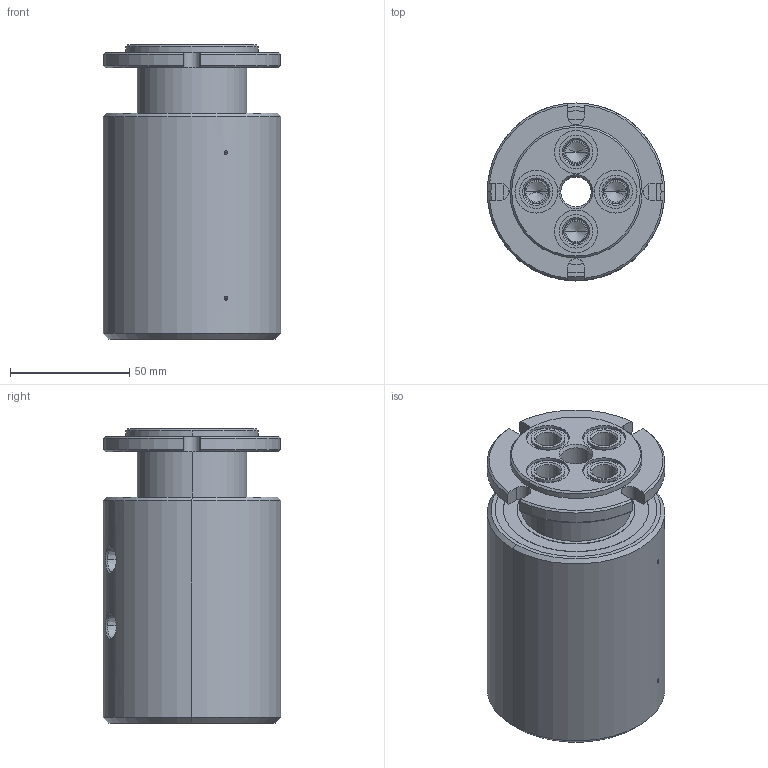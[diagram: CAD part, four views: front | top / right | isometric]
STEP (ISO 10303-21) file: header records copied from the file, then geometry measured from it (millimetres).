
FILE_DESCRIPTION (( 'STEP AP214' ), '1' );
FILE_NAME ('GP(M)-141.STEP', '2013-02-05T22:06:38', ( '' ), ( '' ), 'SwSTEP 2.0', 'SolidWorks 2011', '' );
FILE_SCHEMA (( 'AUTOMOTIVE_DESIGN' ));
Length unit declared in the file: inch
Products named in the file (1): GP(M)-141
Bounding box: 74.6 x 74.6 x 123.44 mm (x, y, z)
Volume: 447804.2 mm3; surface area: 51031.8 mm2
Topology: 1 solids, 1 shells, 222 faces, 526 edges, 317 vertices
Faces by surface type: cylinder 93, cone 76, plane 43, bspline 8, torus 2
Entity records: 7260 total; most frequent: CARTESIAN_POINT 1856, DIRECTION 1104, ORIENTED_EDGE 984, EDGE_CURVE 492, AXIS2_PLACEMENT_3D 453, VERTEX_POINT 317, EDGE_LOOP 269, CIRCLE 238
